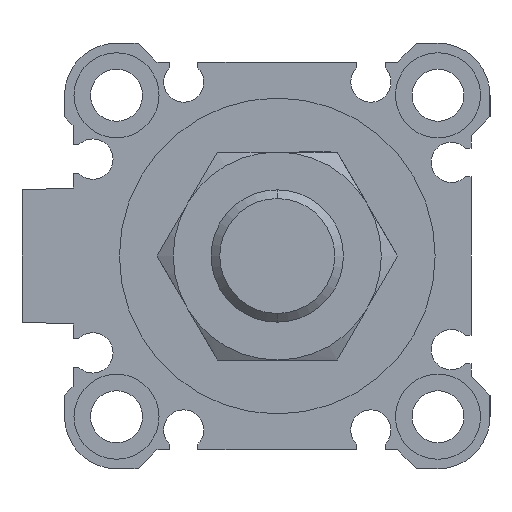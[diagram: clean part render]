
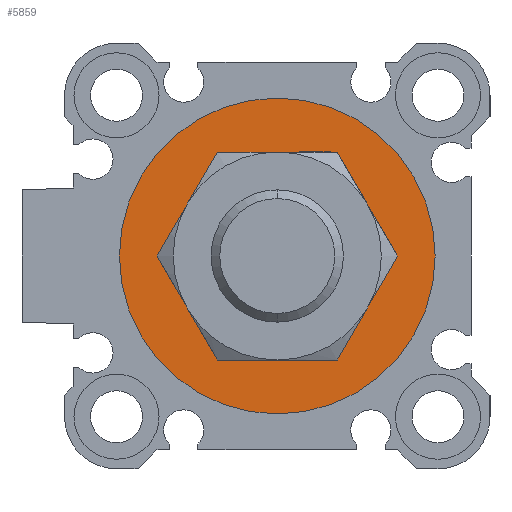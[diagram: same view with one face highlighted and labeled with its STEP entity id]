
A CAD part, left-side view. The second image highlights one B-rep face of the part: STEP entity #5859.
In plain terms, the highlighted planar face has unit normal (-1, 0, 0).
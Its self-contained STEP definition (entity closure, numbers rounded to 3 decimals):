
#84 = VERTEX_POINT ( 'NONE', #4835 ) ;
#239 = CARTESIAN_POINT ( 'NONE',  ( 2.1, 0., 10.5 ) ) ;
#292 = DIRECTION ( 'NONE',  ( 0., 0., -1. ) ) ;
#311 = EDGE_LOOP ( 'NONE', ( #367, #3447 ) ) ;
#367 = ORIENTED_EDGE ( 'NONE', *, *, #6794, .F. ) ;
#383 = VERTEX_POINT ( 'NONE', #5099 ) ;
#481 = AXIS2_PLACEMENT_3D ( 'NONE', #5263, #5791, #3187 ) ;
#878 = DIRECTION ( 'NONE',  ( 1., 0., 0. ) ) ;
#986 = CIRCLE ( 'NONE', #4934, 16.7 ) ;
#1286 = DIRECTION ( 'NONE',  ( 1., 0., 0. ) ) ;
#1346 = CARTESIAN_POINT ( 'NONE',  ( 2.1, 0., 0. ) ) ;
#1578 = EDGE_CURVE ( 'NONE', #84, #383, #986, .T. ) ;
#1690 = CARTESIAN_POINT ( 'NONE',  ( 2.1, 0., 0. ) ) ;
#2119 = FACE_OUTER_BOUND ( 'NONE', #311, .T. ) ;
#2157 = DIRECTION ( 'NONE',  ( 1., 0., 0. ) ) ;
#2180 = EDGE_CURVE ( 'NONE', #2817, #5542, #2741, .T. ) ;
#2189 = DIRECTION ( 'NONE',  ( 0., 1., 0. ) ) ;
#2443 = DIRECTION ( 'NONE',  ( 0., 0., -1. ) ) ;
#2721 = ORIENTED_EDGE ( 'NONE', *, *, #5885, .T. ) ;
#2741 = CIRCLE ( 'NONE', #481, 10.5 ) ;
#2817 = VERTEX_POINT ( 'NONE', #4054 ) ;
#3187 = DIRECTION ( 'NONE',  ( 0., 0., -1. ) ) ;
#3282 = CARTESIAN_POINT ( 'NONE',  ( 2.1, 0., 0. ) ) ;
#3351 = CIRCLE ( 'NONE', #5823, 10.5 ) ;
#3447 = ORIENTED_EDGE ( 'NONE', *, *, #1578, .F. ) ;
#3559 = CIRCLE ( 'NONE', #3792, 16.7 ) ;
#3774 = DIRECTION ( 'NONE',  ( 0., 0., -1. ) ) ;
#3792 = AXIS2_PLACEMENT_3D ( 'NONE', #1346, #878, #2443 ) ;
#4054 = CARTESIAN_POINT ( 'NONE',  ( 2.1, 0., -10.5 ) ) ;
#4275 = FACE_BOUND ( 'NONE', #5682, .T. ) ;
#4835 = CARTESIAN_POINT ( 'NONE',  ( 2.1, 0., -16.7 ) ) ;
#4923 = AXIS2_PLACEMENT_3D ( 'NONE', #3282, #2157, #2189 ) ;
#4934 = AXIS2_PLACEMENT_3D ( 'NONE', #5164, #1286, #292 ) ;
#4936 = DIRECTION ( 'NONE',  ( 1., 0., 0. ) ) ;
#5099 = CARTESIAN_POINT ( 'NONE',  ( 2.1, 0., 16.7 ) ) ;
#5164 = CARTESIAN_POINT ( 'NONE',  ( 2.1, 0., 0. ) ) ;
#5263 = CARTESIAN_POINT ( 'NONE',  ( 2.1, 0., 0. ) ) ;
#5360 = PLANE ( 'NONE',  #4923 ) ;
#5542 = VERTEX_POINT ( 'NONE', #239 ) ;
#5682 = EDGE_LOOP ( 'NONE', ( #2721, #5726 ) ) ;
#5726 = ORIENTED_EDGE ( 'NONE', *, *, #2180, .T. ) ;
#5791 = DIRECTION ( 'NONE',  ( 1., 0., 0. ) ) ;
#5823 = AXIS2_PLACEMENT_3D ( 'NONE', #1690, #4936, #3774 ) ;
#5859 = ADVANCED_FACE ( 'NONE', ( #2119, #4275 ), #5360, .F. ) ;
#5885 = EDGE_CURVE ( 'NONE', #5542, #2817, #3351, .T. ) ;
#6794 = EDGE_CURVE ( 'NONE', #383, #84, #3559, .T. ) ;
